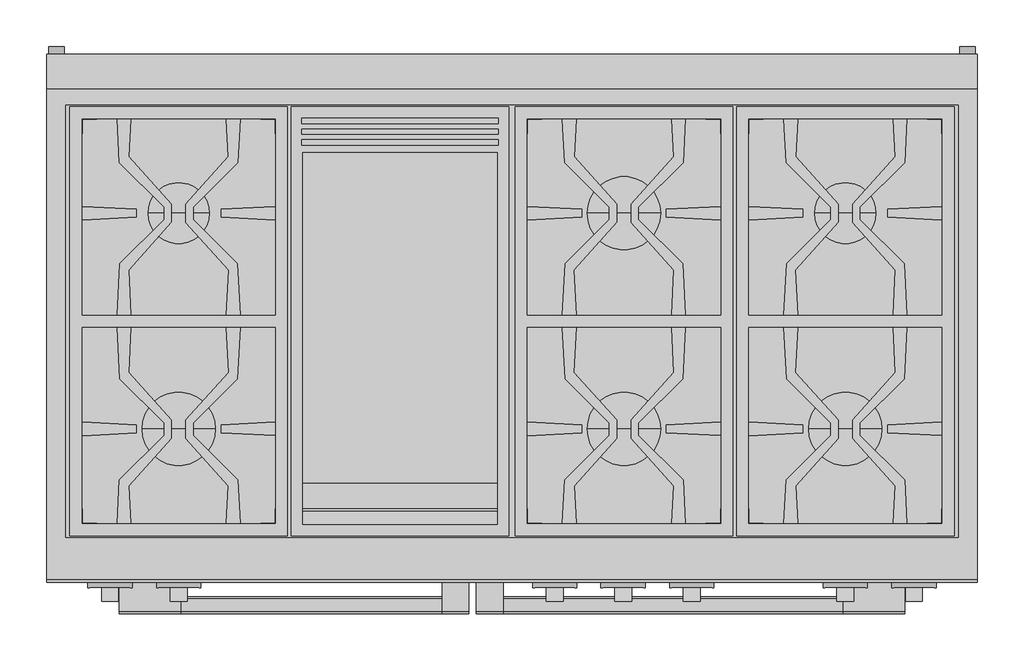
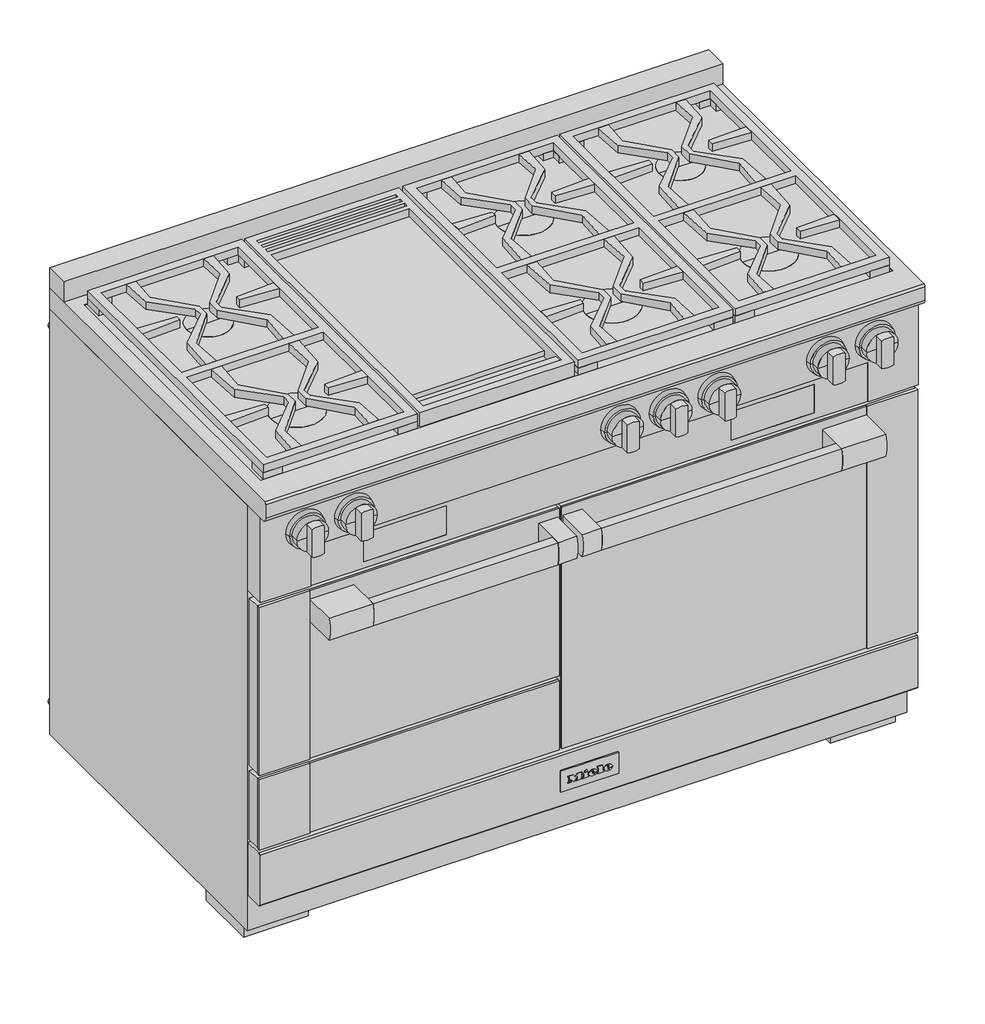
# Not in any storey: 1 proxy.
"""IFC4 building model written with IfcOpenShell, lengths in millimetres."""

from ifc_helpers import new_model, si_unit, origin, place, context, project, spatial, transform, mapped, element, save
from components import specialty_equipment_1e4faf78, specialty_equipment_65e86ba7

model = new_model("IFC4")

# Units and contexts
model_context = context("Model", 3, world=origin())
ifc_project = project(units=[si_unit("LENGTHUNIT", "METRE", prefix="MILLI")], contexts=[model_context])

# Site, building
site = spatial("IfcSite", under=ifc_project)
building = spatial("IfcBuilding", under=site)

# Proxy
placement = place(None, origin())
specialty_equipment_shape = specialty_equipment_1e4faf78(model_context)
specialty_equipment_2_shape = specialty_equipment_65e86ba7(model_context)
element("IfcBuildingElementProxy", 1, Name="11791750_USA_HR1956-3LP_EDST-CLS : 25195682_USA_11791750_HR1956-3LP_EDST-CLS", ObjectType="11791750_USA_HR1956-3LP_EDST-CLS : 25195682_USA_11791750_HR1956-3LP_EDST-CLS", at=placement, inside=building, context=model_context, shape_type="MappedRepresentation", body=[
    mapped(specialty_equipment_shape, transform((0.0, 0.0, 0.0), x_axis=(1.0, 0.0, 0.0), y_axis=(0.0, 1.0, 0.0), z_axis=(0.0, 0.0, 1.0))),
    mapped(specialty_equipment_2_shape, transform((0.0, 0.0, 0.0), x_axis=(1.0, 0.0, 0.0), y_axis=(0.0, 1.0, 0.0), z_axis=(0.0, 0.0, 1.0))),
])

save(model, "model.ifc")
